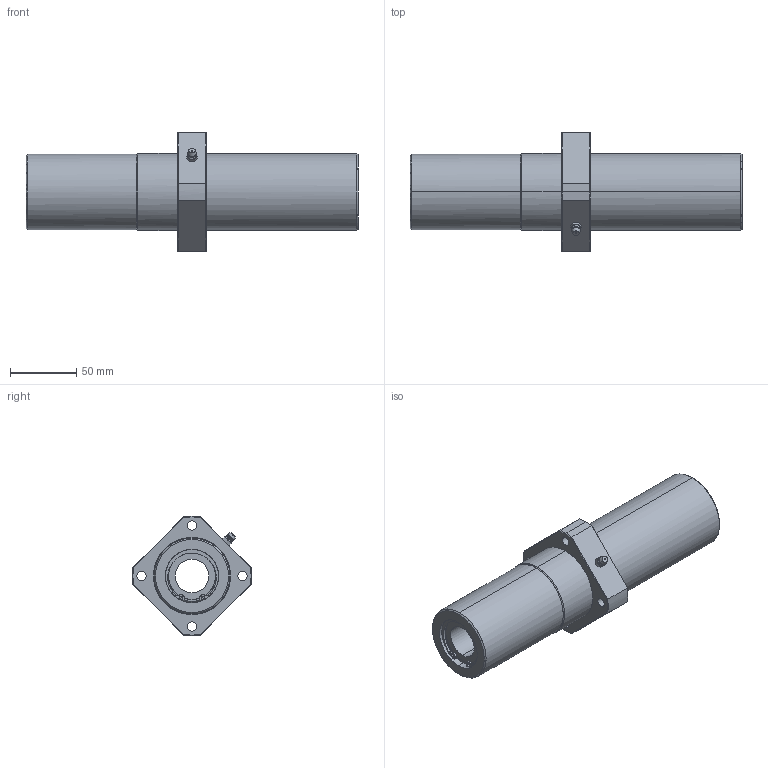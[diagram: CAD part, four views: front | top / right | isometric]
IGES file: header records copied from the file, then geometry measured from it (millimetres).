
Global section: file name: No Iges File Name specified; native system: AutoDesk Inventor R10; preprocessor: AutoDesk Inventor Iges Exporter R10; author: No Author specified; organization: No Organization specified; date: 20101214.141710; units: millimetre
Bounding box: 250 x 89.99 x 90 mm (x, y, z)
Surface area: 84580.9 mm2 (no closed solid volume)
Topology: 0 solids, 0 shells, 186 faces, 1255 edges, 1253 vertices
Faces by surface type: bspline 186
